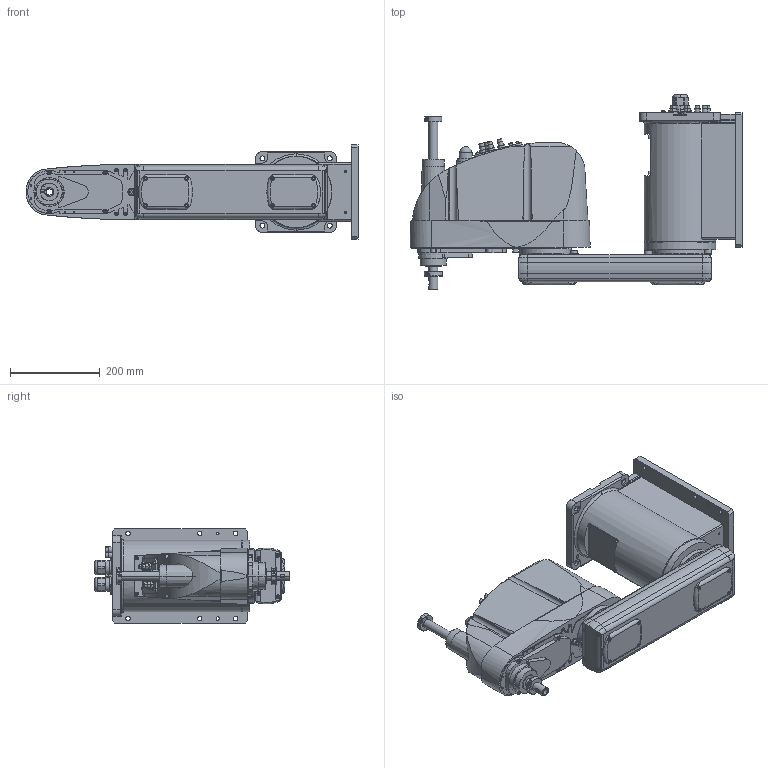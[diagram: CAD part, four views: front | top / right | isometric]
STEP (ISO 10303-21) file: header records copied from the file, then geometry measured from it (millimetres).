
FILE_DESCRIPTION( ( '' ), '1' );
FILE_NAME( '//expscmdclustefs.cadenas.external/client_exchange/iodir/jobs/output/wkb51541919_no0/STEP/G6_551SW_2_03.stp', '2012-11-23T11:15:26', ( '' ), ( '' ), ' ', ' ', ' ' );
FILE_SCHEMA( ( 'CONFIG_CONTROL_DESIGN' ) );
Length unit declared in the file: millimetre
Products named in the file (4): 1; 2; 3; 4
Bounding box: 740 x 434.5 x 210 mm (x, y, z)
Volume: 21101676.4 mm3; surface area: 939857.1 mm2
Topology: 4 solids, 4 shells, 1642 faces, 4038 edges, 2592 vertices
Faces by surface type: plane 844, cylinder 564, cone 202, torus 31, sphere 1
Entity records: 51594 total; most frequent: CARTESIAN_POINT 11769, DIRECTION 8484, ORIENTED_EDGE 8024, EDGE_CURVE 4012, AXIS2_PLACEMENT_3D 3027, VERTEX_POINT 2592, LINE 2430, VECTOR 2430
